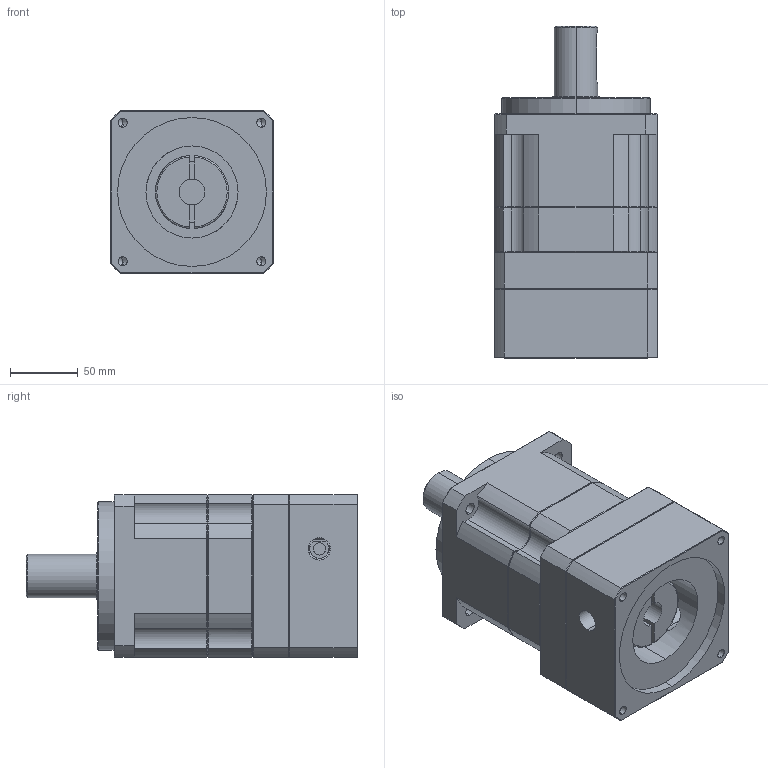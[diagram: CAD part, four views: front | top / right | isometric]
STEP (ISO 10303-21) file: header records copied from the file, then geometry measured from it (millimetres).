
FILE_DESCRIPTION (( 'STEP AP203' ), '1' );
FILE_NAME ('MF120H-L2£r110PCD£r145M8.STEP', '2014-04-21T05:50:59', ( 'KELLY' ), ( '' ), 'SwSTEP 2.0', 'SolidWorks 2012', '' );
FILE_SCHEMA (( 'CONFIG_CONTROL_DESIGN' ));
Length unit declared in the file: millimetre
Products named in the file (1): MF120H-L2｣r110PCD｣r145M8
Bounding box: 120 x 245.2 x 120 mm (x, y, z)
Volume: 2312824.8 mm3; surface area: 205723.1 mm2
Topology: 3 solids, 3 shells, 249 faces, 588 edges, 349 vertices
Faces by surface type: cylinder 90, plane 79, cone 76, torus 4
Entity records: 7707 total; most frequent: CARTESIAN_POINT 1967, DIRECTION 1214, ORIENTED_EDGE 1156, EDGE_CURVE 578, AXIS2_PLACEMENT_3D 494, VERTEX_POINT 349, EDGE_LOOP 281, ADVANCED_FACE 249
